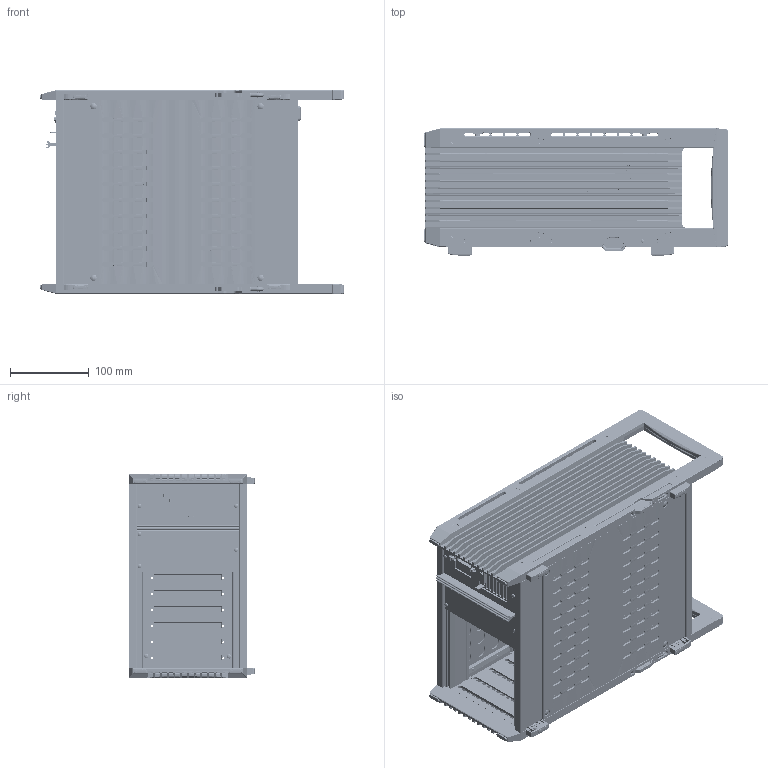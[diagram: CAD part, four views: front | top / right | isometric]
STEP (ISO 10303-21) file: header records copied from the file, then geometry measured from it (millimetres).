
FILE_DESCRIPTION((''),'2;1');
FILE_NAME('1_TG001_E_STEP_1_ASM','2018-10-24T',('jeblick'),(''),'CREO PARAMETRIC BY PTC INC, 2017170','CREO PARAMETRIC BY PTC INC, 2017170','');
FILE_SCHEMA(('CONFIG_CONTROL_DESIGN'));
Products named in the file (4): 1_TG001_E_STEP_SW0001; 3_9241_0324_STEP_SW0001; 1_BL05_STEP_SW0001; 1_TG001_E_STEP_1_ASM
Assembly tree (3 placements, depth 2):
  1_TG001_E_STEP_1_ASM
    1_TG001_E_STEP_SW0001
    3_9241_0324_STEP_SW0001
    1_BL05_STEP_SW0001
Bounding box: 385.76 x 160.5 x 257.9 mm (x, y, z)
Volume: 3734920.9 mm3; surface area: 1345114.8 mm2
Topology: 3 solids, 4 shells, 7646 faces, 22142 edges, 14235 vertices
Faces by surface type: bspline 7646
Entity records: 393324 total; most frequent: CARTESIAN_POINT 160831, ORIENTED_EDGE 44180, DIRECTION 26919, EDGE_CURVE 22090, VECTOR 14779, LINE 14779, VERTEX_POINT 14235, EDGE_LOOP 8687
